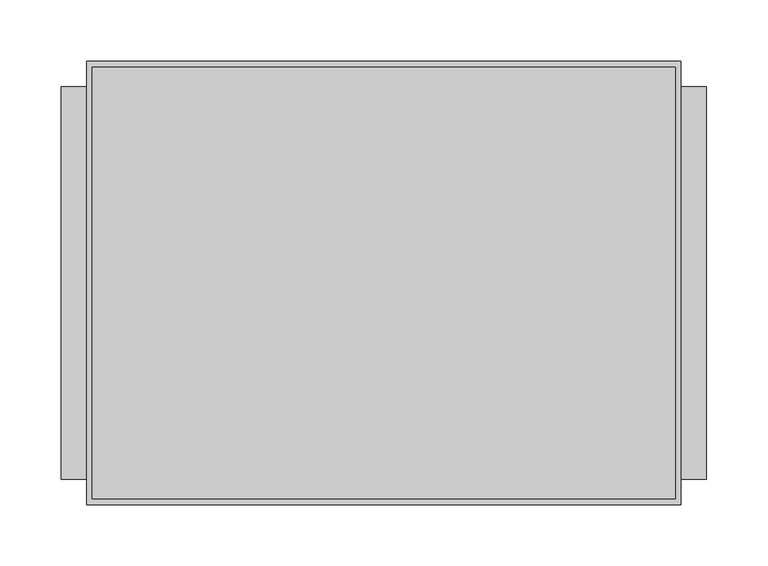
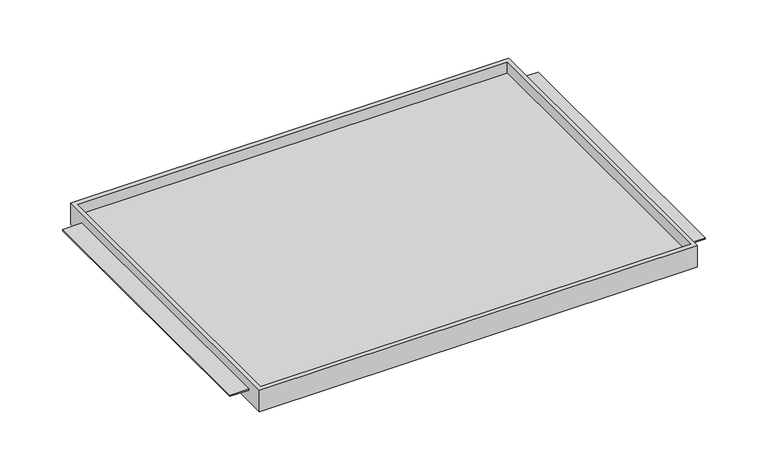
"""IFC4 building model written with IfcOpenShell, lengths in millimetres: furniture geometry."""

import ifcopenshell
import ifcopenshell.guid

model = None  # the IFC model being written
_history = None  # IfcOwnerHistory: only IFC2X3 demands one
_inside = {}  # id of a spatial element -> (the spatial element, [elements in it])
_under = {}  # id of a project, library or spatial element -> (it, [spatial elements below it])
_declared = {}  # id of a project -> (the project, [libraries it declares])
_typed = {}  # id of a type object -> (the type object, [elements of that type])
_made_of = {}  # id of a material, layer set ... -> (it, [elements and type objects made of it])


def new_model(schema):
    """Start an empty IFC model of exactly this schema.

    Asked for "IFC4X3", IfcOpenShell would pick the latest addendum, in which some entities
    have other attributes; the version numbers below select the first issue.
    IFC2X3 requires an IfcOwnerHistory on every rooted entity: one is made here for all.
    """
    global model, _history
    if schema == "IFC4X3":
        model = ifcopenshell.file(schema_version=(4, 3, 0, 0))
    else:
        model = ifcopenshell.file(schema=schema)
    _inside.clear()
    _under.clear()
    _declared.clear()
    _typed.clear()
    _made_of.clear()
    _history = None
    if model.schema == "IFC2X3":
        org = make("IfcOrganization", Name="unknown")
        user = make(
            "IfcPersonAndOrganization",
            ThePerson=make("IfcPerson", FamilyName="unknown"),
            TheOrganization=org,
        )
        app = make(
            "IfcApplication",
            ApplicationDeveloper=org,
            Version="unknown",
            ApplicationFullName="unknown",
            ApplicationIdentifier="unknown",
        )
        _history = make(
            "IfcOwnerHistory",
            OwningUser=user,
            OwningApplication=app,
            ChangeAction="ADDED",
            CreationDate=0,
        )
    return model


def make(cls, **values):
    """One entity of the class cls with the attributes given. An attribute that is None is left unset."""
    return model.create_entity(
        cls, **{name: value for name, value in values.items() if value is not None}
    )


def rooted(cls, **values):
    """An entity with a GlobalId (a new one), such as an element, a storey or a relation."""
    return make(cls, GlobalId=ifcopenshell.guid.new(), OwnerHistory=_history, **values)


def si_unit(unit_type, name, prefix=None):
    """IfcSIUnit, for example si_unit("LENGTHUNIT", "METRE", prefix="MILLI")."""
    return make("IfcSIUnit", UnitType=unit_type, Prefix=prefix, Name=name)


def assignment(units):
    """IfcUnitAssignment: the units of a project."""
    return None if units is None else make("IfcUnitAssignment", Units=units)


def point(xyz):
    """IfcCartesianPoint."""
    return None if xyz is None else make("IfcCartesianPoint", Coordinates=xyz)


def direction(xyz):
    """IfcDirection."""
    return None if xyz is None else make("IfcDirection", DirectionRatios=xyz)


def frame(location, z_axis=None, x_axis=None):
    """IfcAxis2Placement3D, a coordinate frame: its origin and axes. An axis left out is left unset."""
    return make(
        "IfcAxis2Placement3D",
        Location=point(location),
        Axis=direction(z_axis),
        RefDirection=direction(x_axis),
    )


def origin():
    """The frame at (0, 0, 0) with its axes left unset."""
    return frame((0.0, 0.0, 0.0))


def place(relative_to, where):
    """IfcLocalPlacement: puts the frame where relative to a parent placement (None: the world)."""
    return make(
        "IfcLocalPlacement", PlacementRelTo=relative_to, RelativePlacement=where
    )


def context(
    kind, dimensions, precision=None, world=None, true_north=None, identifier=None
):
    """IfcGeometricRepresentationContext, for example the 3D "Model" context."""
    return make(
        "IfcGeometricRepresentationContext",
        ContextIdentifier=identifier,
        ContextType=kind,
        CoordinateSpaceDimension=dimensions,
        Precision=precision,
        WorldCoordinateSystem=world,
        TrueNorth=true_north,
    )


def project(units=None, contexts=None):
    """IfcProject with its units and contexts."""
    return rooted(
        "IfcProject",
        Name="project",
        RepresentationContexts=contexts,
        UnitsInContext=assignment(units),
    )


def spatial(cls, under=None, at=None, **own):
    """A site, building, storey or space (cls), placed at a placement, below another one or the project."""
    s = rooted(cls, ObjectPlacement=at, **own)
    if under is not None:
        _under.setdefault(under.id(), (under, []))[1].append(s)
    return s


def faces_of(points, faces, orient=None, outer=None):
    """IfcFace entities. A face is a list of loops; a loop is a list of indices into points, from 0.

    orient and outer hold one flag for each loop. By default every Orientation is true, the
    first loop of a face is its IfcFaceOuterBound and the others are IfcFaceBound.
    """
    made = []
    for i, loops in enumerate(faces):
        bounds = []
        for j, loop in enumerate(loops):
            is_outer = j == 0 if outer is None else outer[i][j]
            bounds.append(
                make(
                    "IfcFaceOuterBound" if is_outer else "IfcFaceBound",
                    Bound=make("IfcPolyLoop", Polygon=[points[k] for k in loop]),
                    Orientation=True if orient is None else orient[i][j],
                )
            )
        made.append(make("IfcFace", Bounds=bounds))
    return made


def faceted_brep(points, faces, orient=None, outer=None, voids=None):
    """IfcFacetedBrep: a solid bounded by flat faces; with voids (closed shells), ...WithVoids."""
    shared = [point(p) for p in points]
    hull = make("IfcClosedShell", CfsFaces=faces_of(shared, faces, orient, outer))
    if voids is None:
        return make("IfcFacetedBrep", Outer=hull)
    return make(
        "IfcFacetedBrepWithVoids",
        Outer=hull,
        Voids=[
            make(cls, CfsFaces=faces_of(shared, fs, o, b)) for cls, fs, o, b in voids
        ],
    )


def shape(context_of_items, identifier, shape_type, items):
    """IfcShapeRepresentation: the items that make up one representation, for example the "Body"."""
    return make(
        "IfcShapeRepresentation",
        ContextOfItems=context_of_items,
        RepresentationIdentifier=identifier,
        RepresentationType=shape_type,
        Items=items,
    )


def source(mapping_origin, context_of_items, identifier, shape_type, items):
    """IfcRepresentationMap: a shape defined once, which mapped items show again and again."""
    return make(
        "IfcRepresentationMap",
        MappingOrigin=mapping_origin,
        MappedRepresentation=shape(context_of_items, identifier, shape_type, items),
    )


def transform(
    local_origin,
    x_axis=None,
    y_axis=None,
    z_axis=None,
    scale=None,
    scale2=None,
    scale3=None,
    uniform=True,
):
    """IfcCartesianTransformationOperator3D, or its non-uniform kind. x_axis, y_axis, z_axis: its Axis1, 2, 3."""
    if uniform:
        return make(
            "IfcCartesianTransformationOperator3D",
            Axis1=direction(x_axis),
            Axis2=direction(y_axis),
            LocalOrigin=point(local_origin),
            Scale=scale,
            Axis3=direction(z_axis),
        )
    return make(
        "IfcCartesianTransformationOperator3DnonUniform",
        Axis1=direction(x_axis),
        Axis2=direction(y_axis),
        LocalOrigin=point(local_origin),
        Scale=scale,
        Axis3=direction(z_axis),
        Scale2=scale2,
        Scale3=scale3,
    )


def mapped(mapping_source, mapping_target):
    """IfcMappedItem: shows the shape of a source again, moved by a transform."""
    return make(
        "IfcMappedItem", MappingSource=mapping_source, MappingTarget=mapping_target
    )


def made_of(thing, what):
    """Note that an element or type object is made of a material, layer set ...; save() writes the relation."""
    if what is not None:
        _made_of.setdefault(what.id(), (what, []))[1].append(thing)
    return thing


def element(
    cls,
    number,
    at=None,
    inside=None,
    cuts=None,
    type_object=None,
    material=None,
    context=None,
    identifier="Body",
    shape_type=None,
    held_by="IfcProductDefinitionShape",
    body=None,
    shapes=None,
    **own,
):
    """One element of the class cls, such as IfcWall. Its Tag is "e" and its number.

    at: its placement. inside: the storey or other place that contains it. cuts: it is an
    opening in that element (IfcRelVoidsElement). A single representation is given by context,
    identifier, shape_type and body (its items); several are given by shapes. held_by: the class
    of the entity that holds the representations. save() writes the other relations.
    """
    e = rooted(cls, Tag="e%d" % number, ObjectPlacement=at, **own)
    if body is not None:
        shapes = [shape(context, identifier, shape_type, body)]
    if shapes is not None:
        e.Representation = make(held_by, Representations=shapes)
    if inside is not None:
        _inside.setdefault(inside.id(), (inside, []))[1].append(e)
    if cuts is not None:
        rooted(
            "IfcRelVoidsElement", RelatingBuildingElement=cuts, RelatedOpeningElement=e
        )
    if type_object is not None:
        _typed.setdefault(type_object.id(), (type_object, []))[1].append(e)
    return made_of(e, material)


def aggregate(whole, parts):
    """IfcRelAggregates: a whole, such as a stair, and the parts it consists of."""
    return rooted("IfcRelAggregates", RelatingObject=whole, RelatedObjects=parts)


def save(model, path):
    """Write the relations noted so far, then the file.

    IfcRelAggregates (storeys below a building ...), IfcRelContainedInSpatialStructure (elements
    in a storey), IfcRelDefinesByType, IfcRelAssociatesMaterial and IfcRelDeclares: one each for
    every whole, place, type object, material and project.
    """
    for whole, parts in _under.values():
        aggregate(whole, parts)
    for where, things in _inside.values():
        rooted(
            "IfcRelContainedInSpatialStructure",
            RelatedElements=things,
            RelatingStructure=where,
        )
    for kind, things in _typed.values():
        rooted("IfcRelDefinesByType", RelatedObjects=things, RelatingType=kind)
    for what, things in _made_of.values():
        rooted("IfcRelAssociatesMaterial", RelatedObjects=things, RelatingMaterial=what)
    for by, libraries in _declared.values():
        rooted("IfcRelDeclares", RelatingContext=by, RelatedDefinitions=libraries)
    model.write(path)


def furniture_e54e6dd1(model_context):
    return source(origin(), model_context, "Body", "Brep", [
        faceted_brep([(-242.7689646, -180.975, 1282.6111), (242.7689646, -180.975, 1282.6111), (242.7689646, -180.975, 1308.0111), (-242.7689646, -180.975, 1308.0111), (-242.7689646, 180.975, 1282.6111), (-242.7689646, 180.975, 1308.0111), (242.7689646, 180.975, 1308.0111), (242.7689646, 180.975, 1282.6111), (242.7689646, -160.3374879, 1296.9113), (242.7689646, 160.3374879, 1296.9113), (242.7689646, 160.3374879, 1295.3111), (242.7689646, -160.3374879, 1295.3111), (238.125, -176.2125, 1308.0111), (-238.125, -176.2125, 1308.0111), (-238.125, 175.91278, 1308.0111), (238.125, 175.91278, 1308.0111), (-242.7689646, 160.3374879, 1296.9113), (-242.7689646, -160.3374879, 1296.9113), (-242.7689646, -160.3374879, 1295.3111), (-242.7689646, 160.3374879, 1295.3111), (-238.125, -176.2125, 1295.3111), (238.125, -176.2125, 1295.3111), (238.125, 175.91278, 1295.3111), (-238.125, 175.91278, 1295.3111), (-263.525, 160.3374879, 1296.9113), (-263.525, -160.3374879, 1296.9113), (263.525, -160.3374879, 1296.9113), (263.525, 160.3374879, 1296.9113), (-263.525, -160.3374879, 1295.3111), (-263.525, 160.3374879, 1295.3111), (263.525, -160.3374879, 1295.3111), (263.525, 160.3374879, 1295.3111)], [[[0, 1, 2, 3]], [[4, 5, 6, 7]], [[1, 0, 4, 7]], [[2, 1, 7, 6], [8, 9, 10, 11]], [[3, 2, 6, 5], [12, 13, 14, 15]], [[0, 3, 5, 4], [16, 17, 18, 19]], [[20, 21, 22, 23]], [[21, 20, 13, 12]], [[22, 21, 12, 15]], [[23, 22, 15, 14]], [[20, 23, 14, 13]], [[16, 24, 25, 17]], [[26, 27, 9, 8]], [[18, 28, 29, 19]], [[30, 11, 10, 31]], [[24, 16, 19, 29]], [[25, 24, 29, 28]], [[17, 25, 28, 18]], [[27, 26, 30, 31]], [[9, 27, 31, 10]], [[26, 8, 11, 30]]]),
    ])


if __name__ == "__main__":
    model = new_model("IFC4")
    model_context = context("Model", 3, world=origin())
    ifc_project = project(units=[si_unit("LENGTHUNIT", "METRE", prefix="MILLI")], contexts=[model_context])
    site = spatial("IfcSite", under=ifc_project)
    building = spatial("IfcBuilding", under=site)
    placement = place(None, origin())
    furniture_shape = furniture_e54e6dd1(model_context)
    element("IfcFurniture", 1, ObjectType="HermanMiller_CoStruc_CO203_CTrayShelf : 14\"D x 20\"W", at=placement, inside=building, context=model_context, shape_type="MappedRepresentation", body=[
        mapped(furniture_shape, transform((0.0, 0.0, 0.0), x_axis=(1.0, 0.0, 0.0), y_axis=(0.0, 1.0, 0.0), z_axis=(0.0, 0.0, 1.0))),
    ])
    save(model, "model.ifc")
